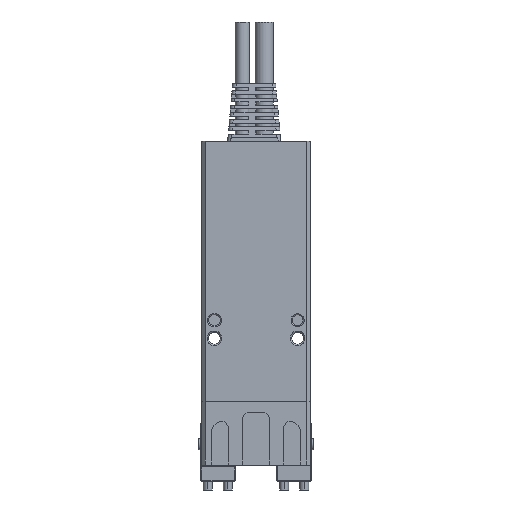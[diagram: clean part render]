
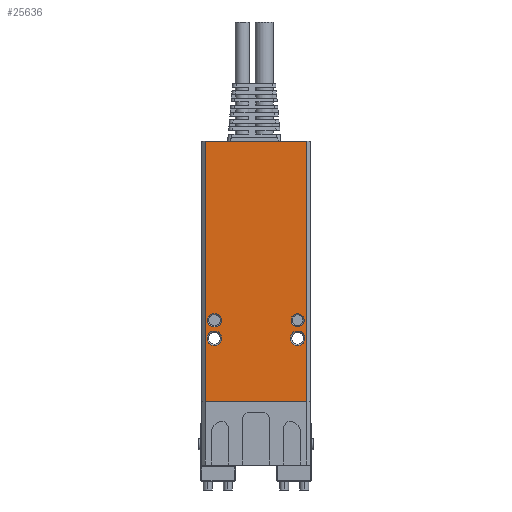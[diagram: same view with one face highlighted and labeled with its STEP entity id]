
A CAD part, front view. The second image highlights one B-rep face of the part: STEP entity #25636.
In plain terms, the highlighted planar face has unit normal (0, -1, 0).
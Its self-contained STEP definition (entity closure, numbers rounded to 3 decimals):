
#123 = ORIENTED_EDGE ( 'NONE', *, *, #6921, .T. ) ;
#282 = ORIENTED_EDGE ( 'NONE', *, *, #2224, .T. ) ;
#675 = CIRCLE ( 'NONE', #7754, 1.8 ) ;
#952 = DIRECTION ( 'NONE',  ( 1., 0., 0. ) ) ;
#957 = DIRECTION ( 'NONE',  ( 0., 0., -1. ) ) ;
#1459 = EDGE_LOOP ( 'NONE', ( #20472, #21945 ) ) ;
#1519 = EDGE_CURVE ( 'NONE', #20600, #28092, #5973, .T. ) ;
#1597 = VERTEX_POINT ( 'NONE', #14981 ) ;
#2186 = CARTESIAN_POINT ( 'NONE',  ( 7.924, -10.015, 94.5 ) ) ;
#2224 = EDGE_CURVE ( 'NONE', #6066, #11681, #675, .T. ) ;
#2278 = CARTESIAN_POINT ( 'NONE',  ( 10.424, -10.015, 144. ) ) ;
#2442 = ORIENTED_EDGE ( 'NONE', *, *, #20360, .T. ) ;
#2523 = DIRECTION ( 'NONE',  ( 0., 1., 0. ) ) ;
#2573 = EDGE_LOOP ( 'NONE', ( #25663, #22534, #2654, #26798 ) ) ;
#2654 = ORIENTED_EDGE ( 'NONE', *, *, #23557, .F. ) ;
#3092 = FACE_BOUND ( 'NONE', #20034, .T. ) ;
#3142 = VERTEX_POINT ( 'NONE', #17386 ) ;
#3341 = CARTESIAN_POINT ( 'NONE',  ( 7.924, -10.015, 89.5 ) ) ;
#3513 = CARTESIAN_POINT ( 'NONE',  ( 11.424, -10.015, 92.7 ) ) ;
#3656 = DIRECTION ( 'NONE',  ( 0., 1., 0. ) ) ;
#3739 = DIRECTION ( 'NONE',  ( -1., 0., 0. ) ) ;
#3815 = LINE ( 'NONE', #3513, #23190 ) ;
#4194 = CIRCLE ( 'NONE', #7040, 1.8 ) ;
#4200 = VECTOR ( 'NONE', #15858, 1000. ) ;
#4587 = CARTESIAN_POINT ( 'NONE',  ( -15.076, -10.015, 89.5 ) ) ;
#5698 = CIRCLE ( 'NONE', #25415, 2.025 ) ;
#5973 = LINE ( 'NONE', #21113, #23630 ) ;
#6066 = VERTEX_POINT ( 'NONE', #13850 ) ;
#6236 = DIRECTION ( 'NONE',  ( 0., 1., 0. ) ) ;
#6451 = AXIS2_PLACEMENT_3D ( 'NONE', #3341, #3656, #12396 ) ;
#6452 = EDGE_CURVE ( 'NONE', #12044, #21467, #5698, .T. ) ;
#6480 = AXIS2_PLACEMENT_3D ( 'NONE', #23715, #16978, #23859 ) ;
#6921 = EDGE_CURVE ( 'NONE', #7452, #27411, #3815, .T. ) ;
#7040 = AXIS2_PLACEMENT_3D ( 'NONE', #10656, #28261, #28544 ) ;
#7401 = FACE_BOUND ( 'NONE', #19936, .T. ) ;
#7452 = VERTEX_POINT ( 'NONE', #8166 ) ;
#7714 = EDGE_CURVE ( 'NONE', #11681, #6066, #4194, .T. ) ;
#7754 = AXIS2_PLACEMENT_3D ( 'NONE', #2186, #9290, #22499 ) ;
#7898 = ORIENTED_EDGE ( 'NONE', *, *, #20402, .T. ) ;
#8166 = CARTESIAN_POINT ( 'NONE',  ( -14.901, -10.015, 92.7 ) ) ;
#8994 = DIRECTION ( 'NONE',  ( 0., 1., 0. ) ) ;
#9036 = AXIS2_PLACEMENT_3D ( 'NONE', #4587, #2523, #28744 ) ;
#9290 = DIRECTION ( 'NONE',  ( 0., 1., 0. ) ) ;
#9646 = FACE_BOUND ( 'NONE', #1459, .T. ) ;
#9681 = CARTESIAN_POINT ( 'NONE',  ( 11.424, -10.015, 72. ) ) ;
#9732 = EDGE_CURVE ( 'NONE', #27411, #20162, #22664, .T. ) ;
#10376 = DIRECTION ( 'NONE',  ( -1., 0., 0. ) ) ;
#10656 = CARTESIAN_POINT ( 'NONE',  ( 7.924, -10.015, 94.5 ) ) ;
#11575 = DIRECTION ( 'NONE',  ( 0., 1., 0. ) ) ;
#11625 = CARTESIAN_POINT ( 'NONE',  ( -15.076, -10.015, 87.475 ) ) ;
#11681 = VERTEX_POINT ( 'NONE', #24785 ) ;
#11934 = ORIENTED_EDGE ( 'NONE', *, *, #7714, .T. ) ;
#12044 = VERTEX_POINT ( 'NONE', #17110 ) ;
#12174 = VERTEX_POINT ( 'NONE', #13784 ) ;
#12236 = EDGE_CURVE ( 'NONE', #28092, #3142, #18918, .T. ) ;
#12337 = CARTESIAN_POINT ( 'NONE',  ( -15.251, -10.015, 94.5 ) ) ;
#12396 = DIRECTION ( 'NONE',  ( 0., 0., 1. ) ) ;
#12410 = EDGE_CURVE ( 'NONE', #25941, #28891, #16539, .T. ) ;
#12905 = CARTESIAN_POINT ( 'NONE',  ( 11.424, -10.015, 144. ) ) ;
#13320 = AXIS2_PLACEMENT_3D ( 'NONE', #12337, #25838, #3739 ) ;
#13784 = CARTESIAN_POINT ( 'NONE',  ( -14.901, -10.015, 96.3 ) ) ;
#13850 = CARTESIAN_POINT ( 'NONE',  ( 7.924, -10.015, 96.3 ) ) ;
#14149 = ORIENTED_EDGE ( 'NONE', *, *, #9732, .T. ) ;
#14328 = CARTESIAN_POINT ( 'NONE',  ( -17.576, -10.015, 144. ) ) ;
#14347 = AXIS2_PLACEMENT_3D ( 'NONE', #17833, #8994, #25111 ) ;
#14532 = ORIENTED_EDGE ( 'NONE', *, *, #21691, .T. ) ;
#14981 = CARTESIAN_POINT ( 'NONE',  ( 10.424, -10.015, 144. ) ) ;
#15858 = DIRECTION ( 'NONE',  ( 0., 0., 1. ) ) ;
#15986 = VECTOR ( 'NONE', #21996, 1000. ) ;
#16539 = CIRCLE ( 'NONE', #9036, 2.025 ) ;
#16555 = FACE_BOUND ( 'NONE', #24415, .T. ) ;
#16605 = AXIS2_PLACEMENT_3D ( 'NONE', #21678, #6236, #10376 ) ;
#16978 = DIRECTION ( 'NONE',  ( 0., 1., 0. ) ) ;
#17091 = EDGE_CURVE ( 'NONE', #3142, #1597, #26616, .T. ) ;
#17110 = CARTESIAN_POINT ( 'NONE',  ( 7.924, -10.015, 91.525 ) ) ;
#17386 = CARTESIAN_POINT ( 'NONE',  ( 10.424, -10.015, 72. ) ) ;
#17490 = VECTOR ( 'NONE', #27880, 1000. ) ;
#17559 = DIRECTION ( 'NONE',  ( -1., 0., 0. ) ) ;
#17833 = CARTESIAN_POINT ( 'NONE',  ( -14.901, -10.015, 94.5 ) ) ;
#17908 = CARTESIAN_POINT ( 'NONE',  ( -15.251, -10.015, 96.3 ) ) ;
#18918 = LINE ( 'NONE', #9681, #17490 ) ;
#19364 = CARTESIAN_POINT ( 'NONE',  ( -15.076, -10.015, 91.525 ) ) ;
#19912 = CARTESIAN_POINT ( 'NONE',  ( -15.251, -10.015, 92.7 ) ) ;
#19936 = EDGE_LOOP ( 'NONE', ( #11934, #282 ) ) ;
#19987 = CARTESIAN_POINT ( 'NONE',  ( -17.576, -10.015, 72. ) ) ;
#20034 = EDGE_LOOP ( 'NONE', ( #28658, #14532 ) ) ;
#20162 = VERTEX_POINT ( 'NONE', #17908 ) ;
#20360 = EDGE_CURVE ( 'NONE', #12174, #7452, #22783, .T. ) ;
#20402 = EDGE_CURVE ( 'NONE', #20162, #12174, #21106, .T. ) ;
#20472 = ORIENTED_EDGE ( 'NONE', *, *, #21307, .T. ) ;
#20600 = VERTEX_POINT ( 'NONE', #14328 ) ;
#21106 = LINE ( 'NONE', #23751, #23738 ) ;
#21113 = CARTESIAN_POINT ( 'NONE',  ( -17.576, -10.015, 144. ) ) ;
#21307 = EDGE_CURVE ( 'NONE', #21467, #12044, #25715, .T. ) ;
#21467 = VERTEX_POINT ( 'NONE', #24411 ) ;
#21678 = CARTESIAN_POINT ( 'NONE',  ( 11.424, -10.015, 144. ) ) ;
#21691 = EDGE_CURVE ( 'NONE', #28891, #25941, #27598, .T. ) ;
#21945 = ORIENTED_EDGE ( 'NONE', *, *, #6452, .T. ) ;
#21996 = DIRECTION ( 'NONE',  ( 1., 0., 0. ) ) ;
#22499 = DIRECTION ( 'NONE',  ( -1., 0., 0. ) ) ;
#22534 = ORIENTED_EDGE ( 'NONE', *, *, #17091, .T. ) ;
#22664 = CIRCLE ( 'NONE', #13320, 1.8 ) ;
#22783 = CIRCLE ( 'NONE', #14347, 1.8 ) ;
#23132 = FACE_OUTER_BOUND ( 'NONE', #2573, .T. ) ;
#23190 = VECTOR ( 'NONE', #17559, 1000. ) ;
#23557 = EDGE_CURVE ( 'NONE', #20600, #1597, #28603, .T. ) ;
#23630 = VECTOR ( 'NONE', #957, 1000. ) ;
#23715 = CARTESIAN_POINT ( 'NONE',  ( -15.076, -10.015, 89.5 ) ) ;
#23738 = VECTOR ( 'NONE', #952, 1000. ) ;
#23751 = CARTESIAN_POINT ( 'NONE',  ( 11.424, -10.015, 96.3 ) ) ;
#23859 = DIRECTION ( 'NONE',  ( 0., 0., 1. ) ) ;
#24411 = CARTESIAN_POINT ( 'NONE',  ( 7.924, -10.015, 87.475 ) ) ;
#24415 = EDGE_LOOP ( 'NONE', ( #7898, #2442, #123, #14149 ) ) ;
#24492 = DIRECTION ( 'NONE',  ( 0., 0., 1. ) ) ;
#24785 = CARTESIAN_POINT ( 'NONE',  ( 7.924, -10.015, 92.7 ) ) ;
#25111 = DIRECTION ( 'NONE',  ( -1., 0., 0. ) ) ;
#25415 = AXIS2_PLACEMENT_3D ( 'NONE', #27143, #11575, #24492 ) ;
#25636 = ADVANCED_FACE ( 'NONE', ( #16555, #7401, #3092, #9646, #23132 ), #27432, .F. ) ;
#25663 = ORIENTED_EDGE ( 'NONE', *, *, #12236, .T. ) ;
#25715 = CIRCLE ( 'NONE', #6451, 2.025 ) ;
#25838 = DIRECTION ( 'NONE',  ( 0., 1., 0. ) ) ;
#25941 = VERTEX_POINT ( 'NONE', #11625 ) ;
#26616 = LINE ( 'NONE', #2278, #4200 ) ;
#26798 = ORIENTED_EDGE ( 'NONE', *, *, #1519, .T. ) ;
#27143 = CARTESIAN_POINT ( 'NONE',  ( 7.924, -10.015, 89.5 ) ) ;
#27411 = VERTEX_POINT ( 'NONE', #19912 ) ;
#27432 = PLANE ( 'NONE',  #16605 ) ;
#27598 = CIRCLE ( 'NONE', #6480, 2.025 ) ;
#27880 = DIRECTION ( 'NONE',  ( 1., 0., 0. ) ) ;
#28092 = VERTEX_POINT ( 'NONE', #19987 ) ;
#28261 = DIRECTION ( 'NONE',  ( 0., 1., 0. ) ) ;
#28544 = DIRECTION ( 'NONE',  ( -1., 0., 0. ) ) ;
#28603 = LINE ( 'NONE', #12905, #15986 ) ;
#28658 = ORIENTED_EDGE ( 'NONE', *, *, #12410, .T. ) ;
#28744 = DIRECTION ( 'NONE',  ( 0., 0., 1. ) ) ;
#28891 = VERTEX_POINT ( 'NONE', #19364 ) ;
